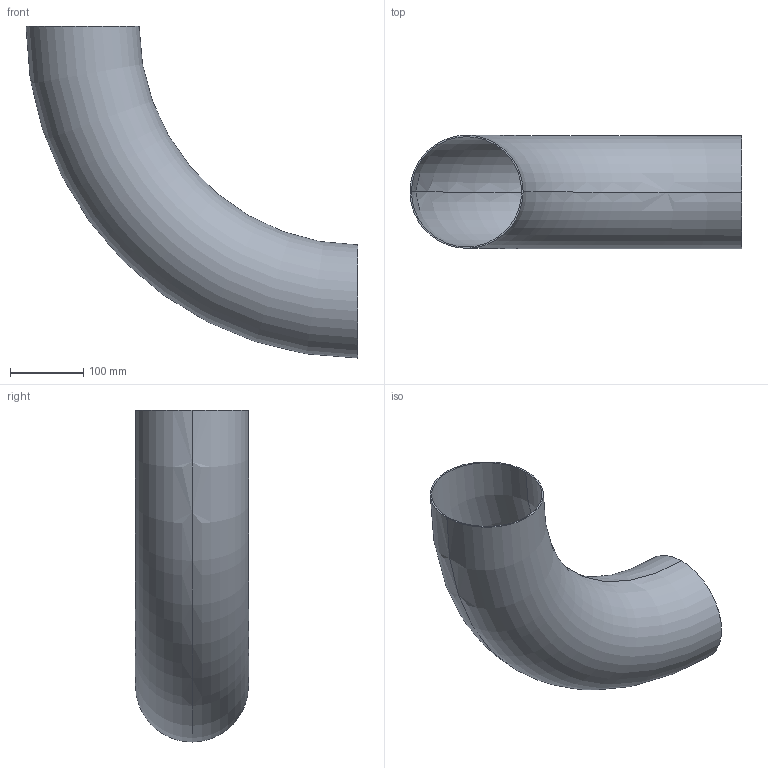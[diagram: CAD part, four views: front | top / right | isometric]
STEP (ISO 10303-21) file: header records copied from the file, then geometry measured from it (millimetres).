
FILE_DESCRIPTION (( 'STEP AP203' ), '1' );
FILE_NAME ('3D_R1655_154x2_17362340.STEP', '2024-08-05T09:23:24', ( '' ), ( '' ), 'SwSTEP 2.0', 'SolidWorks 2024', '' );
FILE_SCHEMA (( 'CONFIG_CONTROL_DESIGN' ));
Length unit declared in the file: millimetre
Products named in the file (1): 3D_R1655_154x2_17362340
Bounding box: 452 x 154 x 452 mm (x, y, z)
Volume: 562567.5 mm3; surface area: 564477.5 mm2
Topology: 1 solids, 1 shells, 6 faces, 12 edges, 8 vertices
Faces by surface type: torus 4, plane 2
Entity records: 249 total; most frequent: DIRECTION 38, CARTESIAN_POINT 27, ORIENTED_EDGE 24, AXIS2_PLACEMENT_3D 19, CIRCLE 12, EDGE_CURVE 12, PERSON_AND_ORGANIZATION 8, VERTEX_POINT 8
